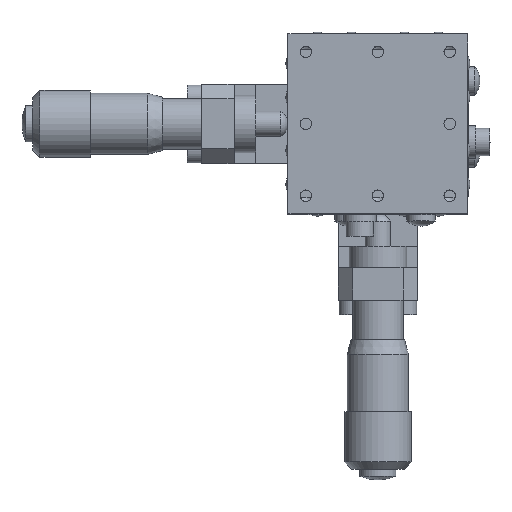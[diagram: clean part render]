
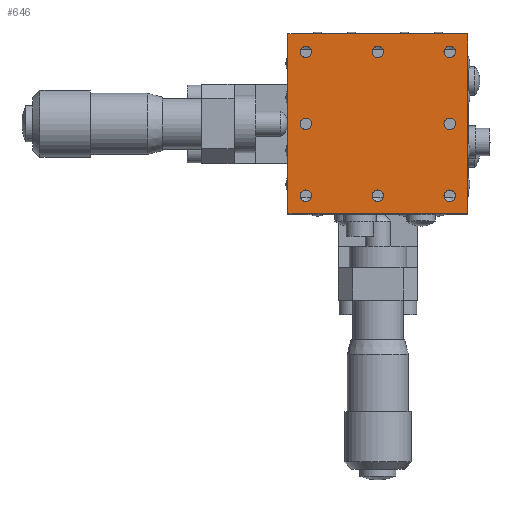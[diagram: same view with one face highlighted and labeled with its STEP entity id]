
A CAD part, top view. The second image highlights one B-rep face of the part: STEP entity #646.
In plain terms, the highlighted planar face has unit normal (0, 0, 1).
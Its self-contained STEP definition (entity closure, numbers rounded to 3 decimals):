
#646 = ADVANCED_FACE( '', ( #1545, #1546, #1547, #1548, #1549, #1550, #1551, #1552, #1553 ), #1554, .T. );
#1545 = FACE_BOUND( '', #2591, .T. );
#1546 = FACE_BOUND( '', #2592, .T. );
#1547 = FACE_BOUND( '', #2593, .T. );
#1548 = FACE_BOUND( '', #2594, .T. );
#1549 = FACE_BOUND( '', #2595, .T. );
#1550 = FACE_BOUND( '', #2596, .T. );
#1551 = FACE_BOUND( '', #2597, .T. );
#1552 = FACE_BOUND( '', #2598, .T. );
#1553 = FACE_OUTER_BOUND( '', #2599, .T. );
#1554 = PLANE( '', #2600 );
#2591 = EDGE_LOOP( '', ( #5220 ) );
#2592 = EDGE_LOOP( '', ( #5221 ) );
#2593 = EDGE_LOOP( '', ( #5222 ) );
#2594 = EDGE_LOOP( '', ( #5223 ) );
#2595 = EDGE_LOOP( '', ( #5224 ) );
#2596 = EDGE_LOOP( '', ( #5225 ) );
#2597 = EDGE_LOOP( '', ( #5226 ) );
#2598 = EDGE_LOOP( '', ( #5227 ) );
#2599 = EDGE_LOOP( '', ( #5228, #5229, #5230, #5231 ) );
#2600 = AXIS2_PLACEMENT_3D( '', #5232, #5233, #5234 );
#5220 = ORIENTED_EDGE( '', *, *, #6506, .T. );
#5221 = ORIENTED_EDGE( '', *, *, #6507, .T. );
#5222 = ORIENTED_EDGE( '', *, *, #6508, .T. );
#5223 = ORIENTED_EDGE( '', *, *, #6509, .T. );
#5224 = ORIENTED_EDGE( '', *, *, #6510, .T. );
#5225 = ORIENTED_EDGE( '', *, *, #6511, .T. );
#5226 = ORIENTED_EDGE( '', *, *, #6512, .T. );
#5227 = ORIENTED_EDGE( '', *, *, #6513, .T. );
#5228 = ORIENTED_EDGE( '', *, *, #6514, .F. );
#5229 = ORIENTED_EDGE( '', *, *, #6503, .F. );
#5230 = ORIENTED_EDGE( '', *, *, #6515, .F. );
#5231 = ORIENTED_EDGE( '', *, *, #6516, .F. );
#5232 = CARTESIAN_POINT( '', ( 0., 0., 26.75 ) );
#5233 = DIRECTION( '', ( 0., 0., 1. ) );
#5234 = DIRECTION( '', ( 0., -1., 0. ) );
#6503 = EDGE_CURVE( '', #7853, #7855, #7856, .T. );
#6506 = EDGE_CURVE( '', #7860, #7860, #7861, .T. );
#6507 = EDGE_CURVE( '', #7862, #7862, #7863, .T. );
#6508 = EDGE_CURVE( '', #7864, #7864, #7865, .T. );
#6509 = EDGE_CURVE( '', #7866, #7866, #7867, .T. );
#6510 = EDGE_CURVE( '', #7868, #7868, #7869, .T. );
#6511 = EDGE_CURVE( '', #7870, #7870, #7871, .T. );
#6512 = EDGE_CURVE( '', #7872, #7872, #7873, .T. );
#6513 = EDGE_CURVE( '', #7874, #7874, #7875, .T. );
#6514 = EDGE_CURVE( '', #7855, #7876, #7877, .T. );
#6515 = EDGE_CURVE( '', #7878, #7853, #7879, .T. );
#6516 = EDGE_CURVE( '', #7876, #7878, #7880, .T. );
#7853 = VERTEX_POINT( '', #9896 );
#7855 = VERTEX_POINT( '', #9899 );
#7856 = LINE( '', #9900, #9901 );
#7860 = VERTEX_POINT( '', #9906 );
#7861 = CIRCLE( '', #9907, 0.8 );
#7862 = VERTEX_POINT( '', #9908 );
#7863 = CIRCLE( '', #9909, 0.8 );
#7864 = VERTEX_POINT( '', #9910 );
#7865 = CIRCLE( '', #9911, 0.8 );
#7866 = VERTEX_POINT( '', #9912 );
#7867 = CIRCLE( '', #9913, 0.8 );
#7868 = VERTEX_POINT( '', #9914 );
#7869 = CIRCLE( '', #9915, 0.8 );
#7870 = VERTEX_POINT( '', #9916 );
#7871 = CIRCLE( '', #9917, 0.8 );
#7872 = VERTEX_POINT( '', #9918 );
#7873 = CIRCLE( '', #9919, 0.8 );
#7874 = VERTEX_POINT( '', #9920 );
#7875 = CIRCLE( '', #9921, 0.8 );
#7876 = VERTEX_POINT( '', #9922 );
#7877 = LINE( '', #9923, #9924 );
#7878 = VERTEX_POINT( '', #9925 );
#7879 = LINE( '', #9926, #9927 );
#7880 = LINE( '', #9928, #9929 );
#9896 = CARTESIAN_POINT( '', ( 12.5, -12.5, 26.75 ) );
#9899 = CARTESIAN_POINT( '', ( -12.5, -12.5, 26.75 ) );
#9900 = CARTESIAN_POINT( '', ( 0., -12.5, 26.75 ) );
#9901 = VECTOR( '', #11379, 1000. );
#9906 = CARTESIAN_POINT( '', ( 10., -0.8, 26.75 ) );
#9907 = AXIS2_PLACEMENT_3D( '', #11384, #11385, #11386 );
#9908 = CARTESIAN_POINT( '', ( -10., -0.8, 26.75 ) );
#9909 = AXIS2_PLACEMENT_3D( '', #11387, #11388, #11389 );
#9910 = CARTESIAN_POINT( '', ( 0., -10.8, 26.75 ) );
#9911 = AXIS2_PLACEMENT_3D( '', #11390, #11391, #11392 );
#9912 = CARTESIAN_POINT( '', ( 10., -10.8, 26.75 ) );
#9913 = AXIS2_PLACEMENT_3D( '', #11393, #11394, #11395 );
#9914 = CARTESIAN_POINT( '', ( 10., 9.2, 26.75 ) );
#9915 = AXIS2_PLACEMENT_3D( '', #11396, #11397, #11398 );
#9916 = CARTESIAN_POINT( '', ( 0., 9.2, 26.75 ) );
#9917 = AXIS2_PLACEMENT_3D( '', #11399, #11400, #11401 );
#9918 = CARTESIAN_POINT( '', ( -10., 9.2, 26.75 ) );
#9919 = AXIS2_PLACEMENT_3D( '', #11402, #11403, #11404 );
#9920 = CARTESIAN_POINT( '', ( -10., -10.8, 26.75 ) );
#9921 = AXIS2_PLACEMENT_3D( '', #11405, #11406, #11407 );
#9922 = CARTESIAN_POINT( '', ( -12.5, 12.5, 26.75 ) );
#9923 = CARTESIAN_POINT( '', ( -12.5, 0., 26.75 ) );
#9924 = VECTOR( '', #11408, 1000. );
#9925 = CARTESIAN_POINT( '', ( 12.5, 12.5, 26.75 ) );
#9926 = CARTESIAN_POINT( '', ( 12.5, 0., 26.75 ) );
#9927 = VECTOR( '', #11409, 1000. );
#9928 = CARTESIAN_POINT( '', ( 0., 12.5, 26.75 ) );
#9929 = VECTOR( '', #11410, 1000. );
#11379 = DIRECTION( '', ( -1., 0., 0. ) );
#11384 = CARTESIAN_POINT( '', ( 10., 0., 26.75 ) );
#11385 = DIRECTION( '', ( 0., 0., -1. ) );
#11386 = DIRECTION( '', ( 0., -1., 0. ) );
#11387 = CARTESIAN_POINT( '', ( -10., 0., 26.75 ) );
#11388 = DIRECTION( '', ( 0., 0., -1. ) );
#11389 = DIRECTION( '', ( 0., -1., 0. ) );
#11390 = CARTESIAN_POINT( '', ( 0., -10., 26.75 ) );
#11391 = DIRECTION( '', ( 0., 0., -1. ) );
#11392 = DIRECTION( '', ( 0., -1., 0. ) );
#11393 = CARTESIAN_POINT( '', ( 10., -10., 26.75 ) );
#11394 = DIRECTION( '', ( 0., 0., -1. ) );
#11395 = DIRECTION( '', ( 0., -1., 0. ) );
#11396 = CARTESIAN_POINT( '', ( 10., 10., 26.75 ) );
#11397 = DIRECTION( '', ( 0., 0., -1. ) );
#11398 = DIRECTION( '', ( 0., -1., 0. ) );
#11399 = CARTESIAN_POINT( '', ( 0., 10., 26.75 ) );
#11400 = DIRECTION( '', ( 0., 0., -1. ) );
#11401 = DIRECTION( '', ( 0., -1., 0. ) );
#11402 = CARTESIAN_POINT( '', ( -10., 10., 26.75 ) );
#11403 = DIRECTION( '', ( 0., 0., -1. ) );
#11404 = DIRECTION( '', ( 0., -1., 0. ) );
#11405 = CARTESIAN_POINT( '', ( -10., -10., 26.75 ) );
#11406 = DIRECTION( '', ( 0., 0., -1. ) );
#11407 = DIRECTION( '', ( 0., -1., 0. ) );
#11408 = DIRECTION( '', ( 0., 1., 0. ) );
#11409 = DIRECTION( '', ( 0., -1., 0. ) );
#11410 = DIRECTION( '', ( 1., 0., 0. ) );
